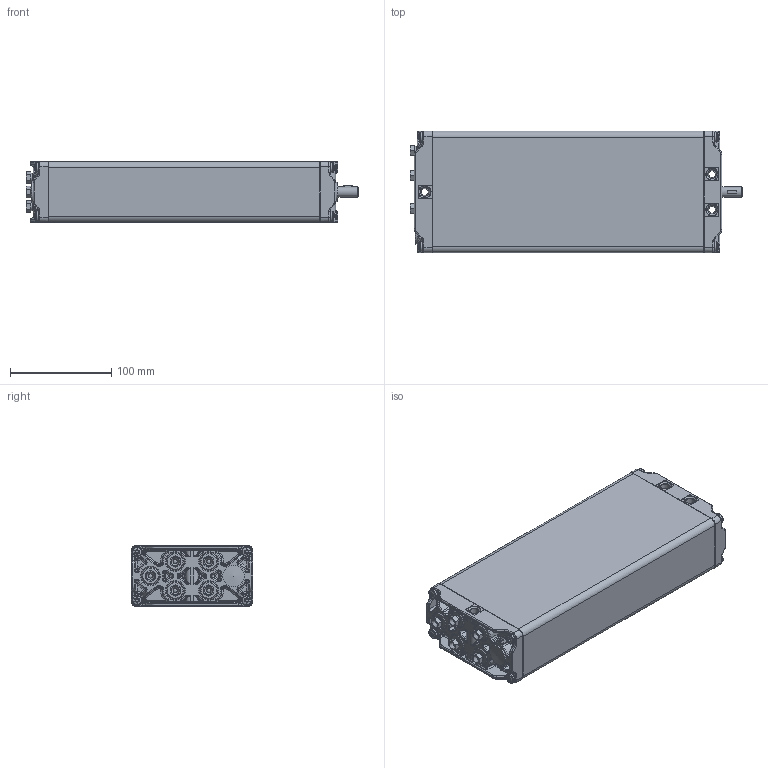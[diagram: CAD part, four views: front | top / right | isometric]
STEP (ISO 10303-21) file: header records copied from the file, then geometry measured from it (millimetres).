
FILE_DESCRIPTION(/* description */ ('Unknown'),/* implementation_level */ '2;1');
FILE_NAME(/* name */ '102.20031 Pumpe PB 5815 W',/* time_stamp */ '2016-10-21T15:31:55+02:00',/* author */ ('Unknown'),/* organization */ ('Unknown'),/* preprocessor_version */ 'ST-DEVELOPER v16.7',/* originating_system */ 'DEX',/* authorisation */ $);
FILE_SCHEMA (('AUTOMOTIVE_DESIGN {1 0 10303 214 3 1 1}'));
Products named in the file (15): 102.20031; 115.00031; 125.00045; 115.00008; 142.00021; 125.00021; 142.00013; 142.00110; 125.00141; 115.00140; 126.00006; 122.00040; 119.00041; 126.00005; 142.00057
Assembly tree (25 placements, depth 3):
  102.20031
    115.00031  x5
      125.00045
      115.00008
      142.00021
      125.00021
    142.00013  x8
    142.00110
    125.00141
    115.00140
      126.00006
      122.00040
    119.00041
    126.00005
    142.00057
Bounding box: 327.47 x 120 x 60.3 mm (x, y, z)
Volume: 461521.8 mm3; surface area: 296988.5 mm2
Topology: 30 solids, 30 shells, 2553 faces, 6047 edges, 3484 vertices
Faces by surface type: bspline 704, plane 684, cylinder 568, cone 361, torus 176, sphere 60
Full cylindrical faces by diameter (mm): 3.5 x5, 4.1 x5, 4.2 x5, 5 x8, 6.917 x10, 8 x11, 9.8 x8, 10 x3, 10.4 x1, 14 x1, 14.4 x5, 15.8 x1, 17.3 x5, 17.9 x10, 18 x2, 19 x1, 21.2 x1
Entity records: 97755 total; most frequent: CARTESIAN_POINT 54090, ORIENTED_EDGE 8250, DIRECTION 6589, EDGE_CURVE 4125, AXIS2_PLACEMENT_3D 2652, VERTEX_POINT 2527, FACE_BOUND 1996, EDGE_LOOP 1995
